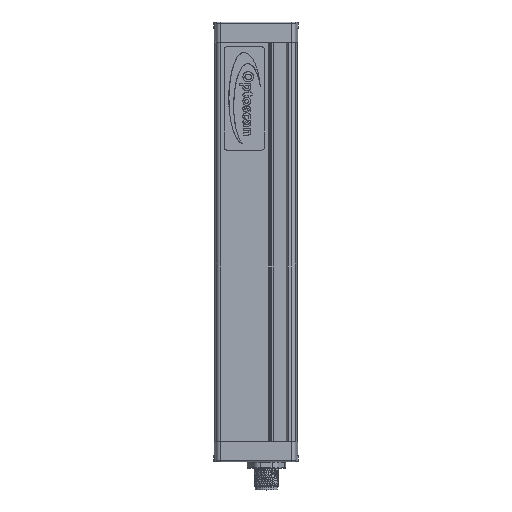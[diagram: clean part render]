
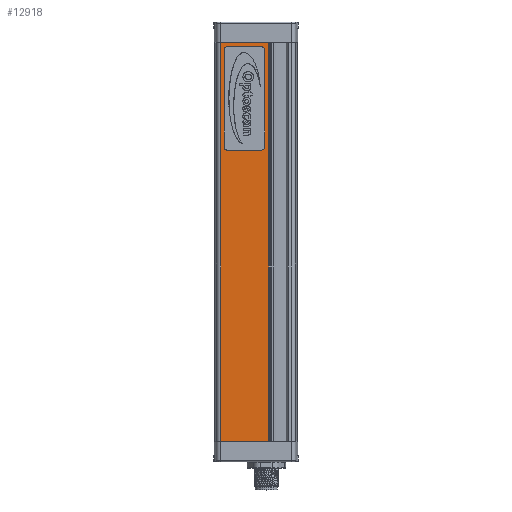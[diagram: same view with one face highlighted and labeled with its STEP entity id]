
A CAD part, top view. The second image highlights one B-rep face of the part: STEP entity #12918.
In plain terms, the highlighted planar face has unit normal (0, 0, 1).
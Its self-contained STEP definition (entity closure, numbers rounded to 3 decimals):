
#148=FACE_BOUND('',#2029,.T.);
#450=CIRCLE('',#13751,1.49);
#451=CIRCLE('',#13752,1.49);
#452=CIRCLE('',#13753,1.49);
#453=CIRCLE('',#13754,1.49);
#975=PLANE('',#13750);
#1324=FACE_OUTER_BOUND('',#2028,.T.);
#2028=EDGE_LOOP('',(#8716,#8717,#8718,#8719));
#2029=EDGE_LOOP('',(#8720,#8721,#8722,#8723,#8724,#8725,#8726,#8727));
#3097=LINE('',#19392,#4122);
#3109=LINE('',#19426,#4134);
#3123=LINE('',#19463,#4148);
#3124=LINE('',#19464,#4149);
#3125=LINE('',#19469,#4150);
#3126=LINE('',#19473,#4151);
#3127=LINE('',#19477,#4152);
#3128=LINE('',#19480,#4153);
#4122=VECTOR('',#15333,10.);
#4134=VECTOR('',#15357,10.);
#4148=VECTOR('',#15385,10.);
#4149=VECTOR('',#15386,10.);
#4150=VECTOR('',#15389,10.);
#4151=VECTOR('',#15392,10.);
#4152=VECTOR('',#15395,10.);
#4153=VECTOR('',#15398,10.);
#5259=VERTEX_POINT('',#19389);
#5260=VERTEX_POINT('',#19391);
#5275=VERTEX_POINT('',#19423);
#5276=VERTEX_POINT('',#19425);
#5293=VERTEX_POINT('',#19465);
#5294=VERTEX_POINT('',#19466);
#5295=VERTEX_POINT('',#19468);
#5296=VERTEX_POINT('',#19470);
#5297=VERTEX_POINT('',#19472);
#5298=VERTEX_POINT('',#19474);
#5299=VERTEX_POINT('',#19476);
#5300=VERTEX_POINT('',#19478);
#6573=EDGE_CURVE('',#5259,#5260,#3097,.T.);
#6589=EDGE_CURVE('',#5276,#5275,#3109,.T.);
#6607=EDGE_CURVE('',#5275,#5260,#3123,.T.);
#6608=EDGE_CURVE('',#5276,#5259,#3124,.T.);
#6609=EDGE_CURVE('',#5293,#5294,#450,.T.);
#6610=EDGE_CURVE('',#5295,#5293,#3125,.T.);
#6611=EDGE_CURVE('',#5296,#5295,#451,.T.);
#6612=EDGE_CURVE('',#5297,#5296,#3126,.T.);
#6613=EDGE_CURVE('',#5298,#5297,#452,.T.);
#6614=EDGE_CURVE('',#5299,#5298,#3127,.T.);
#6615=EDGE_CURVE('',#5300,#5299,#453,.T.);
#6616=EDGE_CURVE('',#5294,#5300,#3128,.T.);
#8716=ORIENTED_EDGE('',*,*,#6589,.T.);
#8717=ORIENTED_EDGE('',*,*,#6607,.T.);
#8718=ORIENTED_EDGE('',*,*,#6573,.F.);
#8719=ORIENTED_EDGE('',*,*,#6608,.F.);
#8720=ORIENTED_EDGE('',*,*,#6609,.F.);
#8721=ORIENTED_EDGE('',*,*,#6610,.F.);
#8722=ORIENTED_EDGE('',*,*,#6611,.F.);
#8723=ORIENTED_EDGE('',*,*,#6612,.F.);
#8724=ORIENTED_EDGE('',*,*,#6613,.F.);
#8725=ORIENTED_EDGE('',*,*,#6614,.F.);
#8726=ORIENTED_EDGE('',*,*,#6615,.F.);
#8727=ORIENTED_EDGE('',*,*,#6616,.F.);
#12918=ADVANCED_FACE('',(#1324,#148),#975,.T.);
#13750=AXIS2_PLACEMENT_3D('',#19462,#15383,#15384);
#13751=AXIS2_PLACEMENT_3D('',#19467,#15387,#15388);
#13752=AXIS2_PLACEMENT_3D('',#19471,#15390,#15391);
#13753=AXIS2_PLACEMENT_3D('',#19475,#15393,#15394);
#13754=AXIS2_PLACEMENT_3D('',#19479,#15396,#15397);
#15333=DIRECTION('',(1.,0.,0.));
#15357=DIRECTION('',(1.,0.,0.));
#15383=DIRECTION('center_axis',(0.,0.,
1.));
#15384=DIRECTION('ref_axis',(1.,0.,0.));
#15385=DIRECTION('',(0.,1.,0.));
#15386=DIRECTION('',(0.,1.,0.));
#15387=DIRECTION('center_axis',(0.,0.,
1.));
#15388=DIRECTION('ref_axis',(0.707,0.707,0.));
#15389=DIRECTION('',(0.,1.,0.));
#15390=DIRECTION('center_axis',(0.,0.,
1.));
#15391=DIRECTION('ref_axis',(0.707,-0.707,0.));
#15392=DIRECTION('',(1.,0.,0.));
#15393=DIRECTION('center_axis',(0.,0.,
1.));
#15394=DIRECTION('ref_axis',(-0.707,-0.707,0.));
#15395=DIRECTION('',(0.,-1.,0.));
#15396=DIRECTION('center_axis',(0.,0.,
1.));
#15397=DIRECTION('ref_axis',(-0.707,0.707,0.));
#15398=DIRECTION('',(-1.,0.,0.));
#19389=CARTESIAN_POINT('',(-12.565,192.,1.277));
#19391=CARTESIAN_POINT('',(10.736,192.,1.277));
#19392=CARTESIAN_POINT('',(-12.565,192.,1.277));
#19423=CARTESIAN_POINT('',(10.736,0.,1.277));
#19425=CARTESIAN_POINT('',(-12.565,0.,1.277));
#19426=CARTESIAN_POINT('',(-12.565,0.,1.277));
#19462=CARTESIAN_POINT('Origin',(-12.565,0.,
1.277));
#19463=CARTESIAN_POINT('',(10.736,0.,1.277));
#19464=CARTESIAN_POINT('',(-12.565,0.,1.277));
#19465=CARTESIAN_POINT('',(8.576,188.5,1.277));
#19466=CARTESIAN_POINT('',(7.086,189.99,1.277));
#19467=CARTESIAN_POINT('Origin',(7.086,188.5,1.277));
#19468=CARTESIAN_POINT('',(8.576,141.7,1.277));
#19469=CARTESIAN_POINT('',(8.576,153.4,1.277));
#19470=CARTESIAN_POINT('',(7.086,140.21,1.277));
#19471=CARTESIAN_POINT('Origin',(7.086,141.7,1.277));
#19472=CARTESIAN_POINT('',(-9.314,140.21,1.277));
#19473=CARTESIAN_POINT('',(-5.214,140.21,1.277));
#19474=CARTESIAN_POINT('',(-10.804,141.7,1.277));
#19475=CARTESIAN_POINT('Origin',(-9.314,141.7,1.277));
#19476=CARTESIAN_POINT('',(-10.804,188.5,1.277));
#19477=CARTESIAN_POINT('',(-10.804,176.8,1.277));
#19478=CARTESIAN_POINT('',(-9.314,189.99,1.277));
#19479=CARTESIAN_POINT('Origin',(-9.314,188.5,1.277));
#19480=CARTESIAN_POINT('',(2.986,189.99,1.277));
